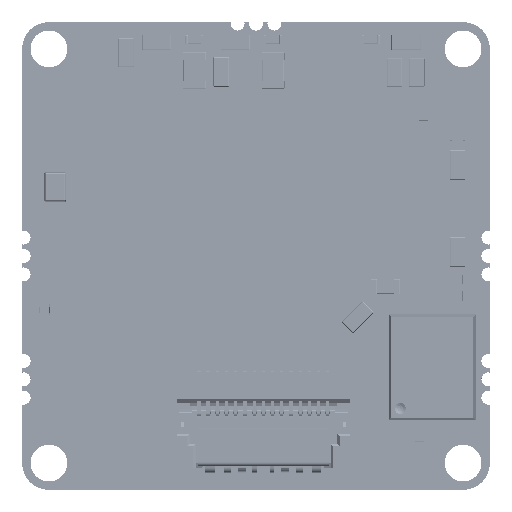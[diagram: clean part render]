
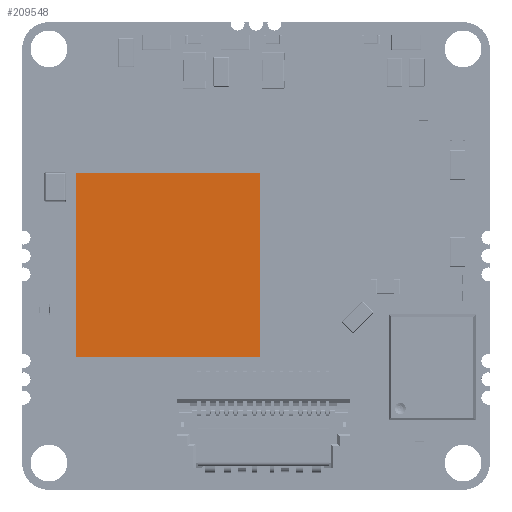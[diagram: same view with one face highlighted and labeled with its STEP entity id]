
A CAD part, top view. The second image highlights one B-rep face of the part: STEP entity #209548.
In plain terms, the highlighted planar face has unit normal (0, 0, 1).
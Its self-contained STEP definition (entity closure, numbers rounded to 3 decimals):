
#209234 = VERTEX_POINT('',#209235);
#209235 = CARTESIAN_POINT('',(5.,-5.,0.89));
#209242 = PLANE('',#209243);
#209243 = AXIS2_PLACEMENT_3D('',#209244,#209245,#209246);
#209244 = CARTESIAN_POINT('',(5.,-5.,0.));
#209245 = DIRECTION('',(0.,-1.,0.));
#209246 = DIRECTION('',(-1.,0.,0.));
#209254 = PLANE('',#209255);
#209255 = AXIS2_PLACEMENT_3D('',#209256,#209257,#209258);
#209256 = CARTESIAN_POINT('',(5.,5.,0.));
#209257 = DIRECTION('',(1.,0.,0.));
#209258 = DIRECTION('',(0.,-1.,0.));
#209266 = EDGE_CURVE('',#209234,#209267,#209269,.T.);
#209267 = VERTEX_POINT('',#209268);
#209268 = CARTESIAN_POINT('',(-5.,-5.,0.89));
#209269 = SURFACE_CURVE('',#209270,(#209274,#209281),.PCURVE_S1.);
#209270 = LINE('',#209271,#209272);
#209271 = CARTESIAN_POINT('',(5.,-5.,0.89));
#209272 = VECTOR('',#209273,1.);
#209273 = DIRECTION('',(-1.,0.,0.));
#209274 = PCURVE('',#209242,#209275);
#209275 = DEFINITIONAL_REPRESENTATION('',(#209276),#209280);
#209276 = LINE('',#209277,#209278);
#209277 = CARTESIAN_POINT('',(0.,-0.89));
#209278 = VECTOR('',#209279,1.);
#209279 = DIRECTION('',(1.,0.));
#209280 = ( GEOMETRIC_REPRESENTATION_CONTEXT(2) 
PARAMETRIC_REPRESENTATION_CONTEXT() REPRESENTATION_CONTEXT('2D SPACE',''
  ) );
#209281 = PCURVE('',#209282,#209287);
#209282 = PLANE('',#209283);
#209283 = AXIS2_PLACEMENT_3D('',#209284,#209285,#209286);
#209284 = CARTESIAN_POINT('',(5.,-5.,0.89));
#209285 = DIRECTION('',(0.,0.,1.));
#209286 = DIRECTION('',(1.,0.,0.));
#209287 = DEFINITIONAL_REPRESENTATION('',(#209288),#209292);
#209288 = LINE('',#209289,#209290);
#209289 = CARTESIAN_POINT('',(0.,0.));
#209290 = VECTOR('',#209291,1.);
#209291 = DIRECTION('',(-1.,0.));
#209292 = ( GEOMETRIC_REPRESENTATION_CONTEXT(2) 
PARAMETRIC_REPRESENTATION_CONTEXT() REPRESENTATION_CONTEXT('2D SPACE',''
  ) );
#209310 = PLANE('',#209311);
#209311 = AXIS2_PLACEMENT_3D('',#209312,#209313,#209314);
#209312 = CARTESIAN_POINT('',(-5.,-5.,0.));
#209313 = DIRECTION('',(-1.,0.,0.));
#209314 = DIRECTION('',(0.,1.,0.));
#209352 = EDGE_CURVE('',#209267,#209353,#209355,.T.);
#209353 = VERTEX_POINT('',#209354);
#209354 = CARTESIAN_POINT('',(-5.,5.,0.89));
#209355 = SURFACE_CURVE('',#209356,(#209360,#209367),.PCURVE_S1.);
#209356 = LINE('',#209357,#209358);
#209357 = CARTESIAN_POINT('',(-5.,-5.,0.89));
#209358 = VECTOR('',#209359,1.);
#209359 = DIRECTION('',(0.,1.,0.));
#209360 = PCURVE('',#209310,#209361);
#209361 = DEFINITIONAL_REPRESENTATION('',(#209362),#209366);
#209362 = LINE('',#209363,#209364);
#209363 = CARTESIAN_POINT('',(0.,-0.89));
#209364 = VECTOR('',#209365,1.);
#209365 = DIRECTION('',(1.,0.));
#209366 = ( GEOMETRIC_REPRESENTATION_CONTEXT(2) 
PARAMETRIC_REPRESENTATION_CONTEXT() REPRESENTATION_CONTEXT('2D SPACE',''
  ) );
#209367 = PCURVE('',#209282,#209368);
#209368 = DEFINITIONAL_REPRESENTATION('',(#209369),#209373);
#209369 = LINE('',#209370,#209371);
#209370 = CARTESIAN_POINT('',(-10.,0.));
#209371 = VECTOR('',#209372,1.);
#209372 = DIRECTION('',(0.,1.));
#209373 = ( GEOMETRIC_REPRESENTATION_CONTEXT(2) 
PARAMETRIC_REPRESENTATION_CONTEXT() REPRESENTATION_CONTEXT('2D SPACE',''
  ) );
#209391 = PLANE('',#209392);
#209392 = AXIS2_PLACEMENT_3D('',#209393,#209394,#209395);
#209393 = CARTESIAN_POINT('',(-5.,5.,0.));
#209394 = DIRECTION('',(0.,1.,0.));
#209395 = DIRECTION('',(1.,0.,0.));
#209428 = EDGE_CURVE('',#209353,#209429,#209431,.T.);
#209429 = VERTEX_POINT('',#209430);
#209430 = CARTESIAN_POINT('',(5.,5.,0.89));
#209431 = SURFACE_CURVE('',#209432,(#209436,#209443),.PCURVE_S1.);
#209432 = LINE('',#209433,#209434);
#209433 = CARTESIAN_POINT('',(-5.,5.,0.89));
#209434 = VECTOR('',#209435,1.);
#209435 = DIRECTION('',(1.,0.,0.));
#209436 = PCURVE('',#209391,#209437);
#209437 = DEFINITIONAL_REPRESENTATION('',(#209438),#209442);
#209438 = LINE('',#209439,#209440);
#209439 = CARTESIAN_POINT('',(0.,-0.89));
#209440 = VECTOR('',#209441,1.);
#209441 = DIRECTION('',(1.,0.));
#209442 = ( GEOMETRIC_REPRESENTATION_CONTEXT(2) 
PARAMETRIC_REPRESENTATION_CONTEXT() REPRESENTATION_CONTEXT('2D SPACE',''
  ) );
#209443 = PCURVE('',#209282,#209444);
#209444 = DEFINITIONAL_REPRESENTATION('',(#209445),#209449);
#209445 = LINE('',#209446,#209447);
#209446 = CARTESIAN_POINT('',(-10.,10.));
#209447 = VECTOR('',#209448,1.);
#209448 = DIRECTION('',(1.,0.));
#209449 = ( GEOMETRIC_REPRESENTATION_CONTEXT(2) 
PARAMETRIC_REPRESENTATION_CONTEXT() REPRESENTATION_CONTEXT('2D SPACE',''
  ) );
#209499 = EDGE_CURVE('',#209429,#209234,#209500,.T.);
#209500 = SURFACE_CURVE('',#209501,(#209505,#209512),.PCURVE_S1.);
#209501 = LINE('',#209502,#209503);
#209502 = CARTESIAN_POINT('',(5.,5.,0.89));
#209503 = VECTOR('',#209504,1.);
#209504 = DIRECTION('',(0.,-1.,0.));
#209505 = PCURVE('',#209254,#209506);
#209506 = DEFINITIONAL_REPRESENTATION('',(#209507),#209511);
#209507 = LINE('',#209508,#209509);
#209508 = CARTESIAN_POINT('',(0.,-0.89));
#209509 = VECTOR('',#209510,1.);
#209510 = DIRECTION('',(1.,0.));
#209511 = ( GEOMETRIC_REPRESENTATION_CONTEXT(2) 
PARAMETRIC_REPRESENTATION_CONTEXT() REPRESENTATION_CONTEXT('2D SPACE',''
  ) );
#209512 = PCURVE('',#209282,#209513);
#209513 = DEFINITIONAL_REPRESENTATION('',(#209514),#209518);
#209514 = LINE('',#209515,#209516);
#209515 = CARTESIAN_POINT('',(0.,10.));
#209516 = VECTOR('',#209517,1.);
#209517 = DIRECTION('',(0.,-1.));
#209518 = ( GEOMETRIC_REPRESENTATION_CONTEXT(2) 
PARAMETRIC_REPRESENTATION_CONTEXT() REPRESENTATION_CONTEXT('2D SPACE',''
  ) );
#209548 = ADVANCED_FACE('',(#209549),#209282,.T.);
#209549 = FACE_BOUND('',#209550,.F.);
#209550 = EDGE_LOOP('',(#209551,#209552,#209553,#209554));
#209551 = ORIENTED_EDGE('',*,*,#209266,.T.);
#209552 = ORIENTED_EDGE('',*,*,#209352,.T.);
#209553 = ORIENTED_EDGE('',*,*,#209428,.T.);
#209554 = ORIENTED_EDGE('',*,*,#209499,.T.);
